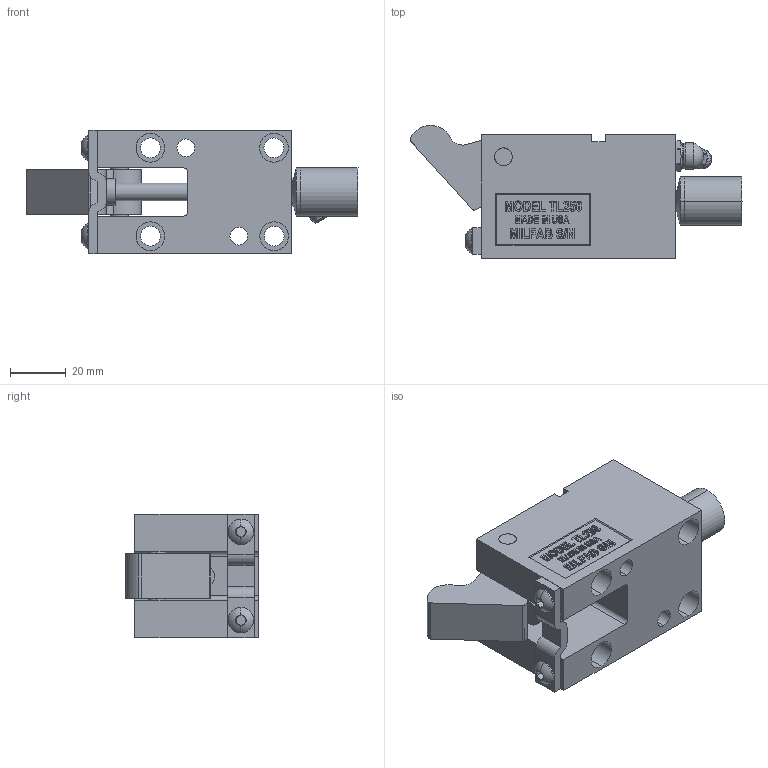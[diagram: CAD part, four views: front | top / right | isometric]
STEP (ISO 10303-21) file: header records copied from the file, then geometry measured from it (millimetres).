
FILE_DESCRIPTION (( 'STEP AP214' ), '1' );
FILE_NAME ('TL25045-O.STEP', '2014-01-05T22:11:13', ( 'user' ), ( '' ), 'SwSTEP 2.0', 'SolidWorks 2009', '' );
FILE_SCHEMA (( 'AUTOMOTIVE_DESIGN' ));
Length unit declared in the file: inch
Products named in the file (11): I-250-POINT; TL25045-O; 250-WASHER; TL250-BODY; L250-PUNCH; 250-I-STRAP; 250 PIVOT PIN; 250 STRIPPER OPEN; 250-OFFSET TRIGGER; 10-SCREW; GREASE ZERK
Assembly tree (11 placements, depth 2):
  TL25045-O
    250-WASHER
    250-I-STRAP
    GREASE ZERK
    250 STRIPPER OPEN
    10-SCREW  x2
    TL250-BODY
    I-250-POINT
    250 PIVOT PIN
    250-OFFSET TRIGGER
    L250-PUNCH
Bounding box: 119.25 x 47.85 x 44.45 mm (x, y, z)
Volume: 116376 mm3; surface area: 37400.3 mm2
Topology: 11 solids, 11 shells, 581 faces, 1492 edges, 978 vertices
Faces by surface type: plane 340, cylinder 100, bspline 87, cone 30, torus 24
Entity records: 22675 total; most frequent: CARTESIAN_POINT 8975, ORIENTED_EDGE 2900, DIRECTION 2400, EDGE_CURVE 1450, VECTOR 960, LINE 960, VERTEX_POINT 954, AXIS2_PLACEMENT_3D 720
